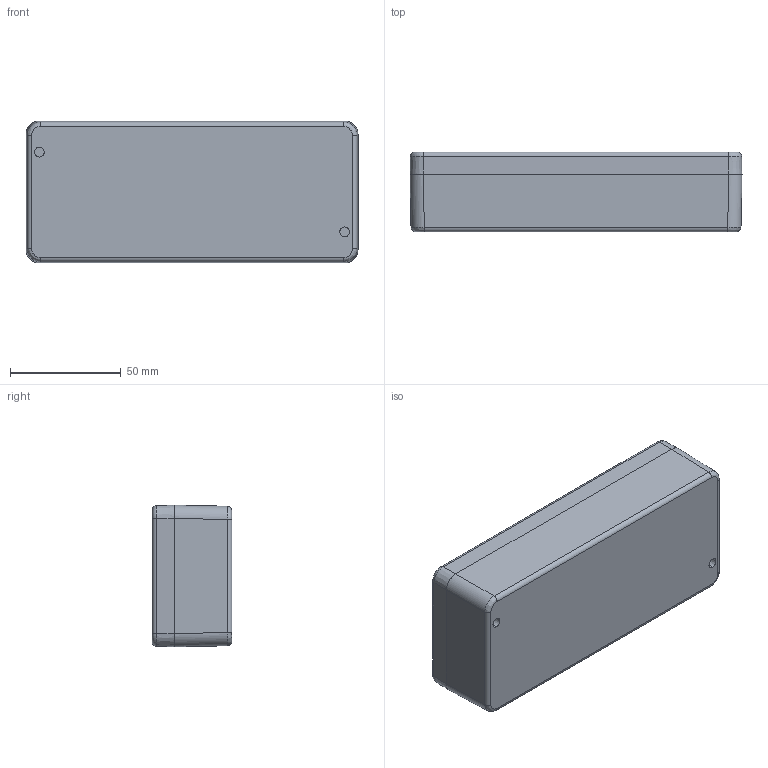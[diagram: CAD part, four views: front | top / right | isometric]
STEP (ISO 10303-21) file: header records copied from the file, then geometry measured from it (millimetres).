
FILE_DESCRIPTION((''),'2;1');
FILE_NAME('1100000000_ASM','2022-07-19T11:10:20',('silke.otte'),(''),'CREO PARAMETRIC BY PTC INC, 2018300','CREO PARAMETRIC BY PTC INC, 2018300','');
FILE_SCHEMA(('AUTOMOTIVE_DESIGN { 1 0 10303 214 1 1 1 1 }'));
Length unit declared in the file: millimetre
Products named in the file (11): 9301004000_AF0; 9261104000; 9601113000_ASM; 9601548000_ASM; 9302004000_AF0; 9261114000; 9611133000_ASM; 9611307000_DICHTUNG; 9611307000_ASM; 9261011000; 1100000000_ASM
Assembly tree (14 placements, depth 4):
  1100000000_ASM
    9601548000_ASM
      9601113000_ASM
        9301004000_AF0
        9261104000  x2
    9611307000_ASM
      9611133000_ASM
        9302004000_AF0
        9261114000
      9611307000_DICHTUNG
    9261011000  x4
Bounding box: 150 x 36 x 64 mm (x, y, z)
Volume: 118663 mm3; surface area: 77255.3 mm2
Topology: 21 solids, 35 shells, 1087 faces, 2734 edges, 1706 vertices
Faces by surface type: plane 433, cylinder 288, cone 231, torus 115, bspline 19, sphere 1
Entity records: 37186 total; most frequent: CARTESIAN_POINT 7358, DIRECTION 4235, ORIENTED_EDGE 3960, PRESENTATION_STYLE_ASSIGNMENT 2026, STYLED_ITEM 2026, CURVE_STYLE 2000, EDGE_CURVE 2000, AXIS2_PLACEMENT_3D 1637
